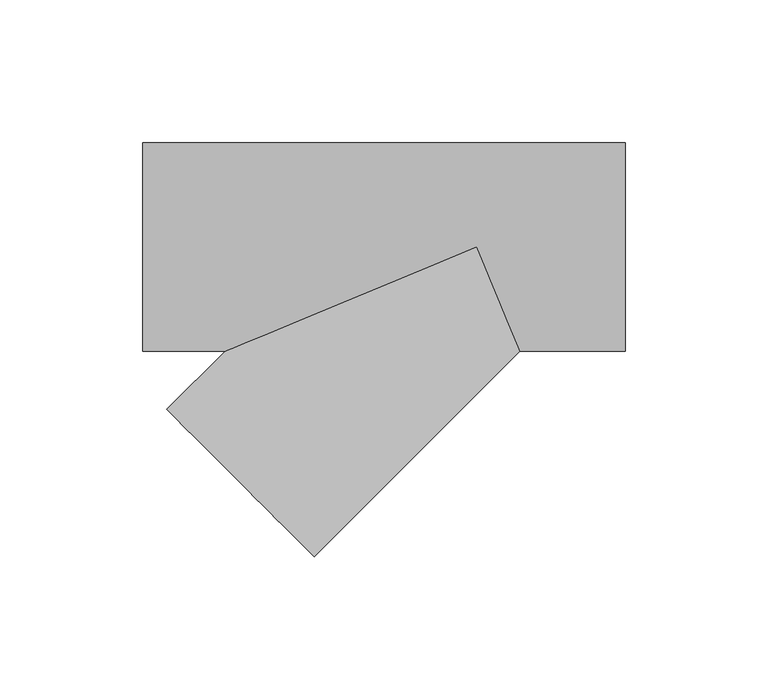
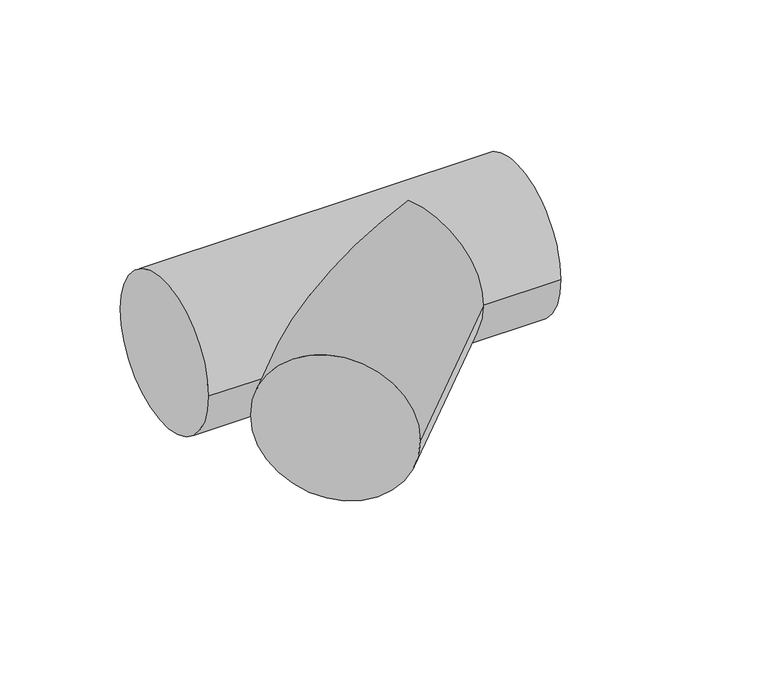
"""IFC4 building model written with IfcOpenShell, lengths in millimetres: pipe fitting geometry, 010513441 : Tés à 45º."""

from ifc_helpers import new_model, si_unit, frame, origin, place, context, project, spatial, circle_curve, ellipse_curve, source, transform, mapped, element, save
from ifc_brep_helpers import plane_surface, cylinder_surface, advanced_brep


def pipe_fitting_987cecb0(model_context):
    return source(origin(), model_context, "Body", "AdvancedBrep", [
        advanced_brep(
        [(-117.0, -36.5, 0.0), (-117.0, 36.5, 0.0), (52.0, -36.5, 0.0), (52.0, 36.5, 0.0), (-88.118795, -36.5, 0.0), (0.0, 0.0, 36.5), (15.118795, -36.5, 0.0), (0.0, 0.0, -36.5), (-108.5408909, -56.9220959, 0.0), (-56.9220959, -108.5408909, 0.0)],
        [
            (0, 1, circle_curve(frame((-117.0, 0.0, 0.0), z_axis=(-1.0, 0.0, 0.0), x_axis=(0.0, 1.0, 0.0)), 36.5)),
            (1, 0, circle_curve(frame((-117.0, 0.0, 0.0), z_axis=(-1.0, 0.0, 0.0), x_axis=(0.0, 1.0, 0.0)), 36.5)),
            (2, 3, circle_curve(frame((52.0, 0.0, 0.0), z_axis=(1.0, 0.0, 0.0), x_axis=(0.0, 1.0, 0.0)), 36.5)),
            (3, 2, circle_curve(frame((52.0, 0.0, 0.0), z_axis=(1.0, 0.0, 0.0), x_axis=(0.0, 1.0, 0.0)), 36.5)),
            (0, 4),
            (4, 5, ellipse_curve(frame((0.0, 0.0, 0.0), z_axis=(-0.38268343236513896, 0.9238795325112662, 0.0), x_axis=(-0.9238795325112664, -0.3826834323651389, 0.0)), 95.3790964, 36.5)),
            (5, 6, ellipse_curve(frame((0.0, 0.0, 0.0), z_axis=(0.9238795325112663, 0.382683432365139, 0.0), x_axis=(-0.38268343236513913, 0.9238795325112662, 0.0)), 39.5073153, 36.5)),
            (6, 2),
            (3, 1),
            (6, 7, ellipse_curve(frame((0.0, 0.0, 0.0), z_axis=(0.9238795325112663, 0.382683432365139, 0.0), x_axis=(-0.38268343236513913, 0.9238795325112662, 0.0)), 39.5073153, 36.5)),
            (7, 4, ellipse_curve(frame((0.0, 0.0, 0.0), z_axis=(-0.38268343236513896, 0.9238795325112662, 0.0), x_axis=(-0.9238795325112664, -0.3826834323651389, 0.0)), 95.3790964, 36.5)),
            (8, 9, circle_curve(frame((-82.7314934, -82.7314934, 0.0), z_axis=(-0.7071067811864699, -0.7071067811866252, 0.0), x_axis=(0.7071067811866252, -0.7071067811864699, 0.0)), 36.5)),
            (9, 8, circle_curve(frame((-82.7314934, -82.7314934, 0.0), z_axis=(-0.7071067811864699, -0.7071067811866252, 0.0), x_axis=(0.7071067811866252, -0.7071067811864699, 0.0)), 36.5)),
            (9, 6),
            (4, 8),
        ],
        [
            plane_surface(frame((-117.0, 0.0, 0.0), z_axis=(-1.0, 0.0, 0.0), x_axis=(0.0, 0.0, 1.0))),
            plane_surface(frame((52.0, 0.0, 0.0), z_axis=(1.0, 0.0, 0.0), x_axis=(0.0, 0.0, 1.0))),
            cylinder_surface(frame((-117.0, 0.0, 0.0), z_axis=(-1.0, 0.0, 0.0), x_axis=(0.0, 1.0, 0.0)), 36.5),
            plane_surface(frame((-82.7314934, -82.7314934, 0.0), z_axis=(-0.7071067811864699, -0.7071067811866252, 0.0), x_axis=(0.0, 0.0, 1.0))),
            cylinder_surface(frame((0.0, 0.0, 0.0), z_axis=(0.7071067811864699, 0.7071067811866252, 0.0), x_axis=(0.7071067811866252, -0.7071067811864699, 0.0)), 36.5),
        ],
        [
            (0, [[1, 2]]),
            (1, [[3, 4]]),
            (2, [[-1, 5, 6, 7, 8, -4, 9]]),
            (2, [[-2, -9, -3, -8, 10, 11, -5]]),
            (3, [[12, 13]]),
            (4, [[-13, 14, -7, -6, 15]]),
            (4, [[-12, -15, -11, -10, -14]]),
        ],
    ),
    ])


if __name__ == "__main__":
    model = new_model("IFC4")
    model_context = context("Model", 3, world=origin())
    ifc_project = project(units=[si_unit("LENGTHUNIT", "METRE", prefix="MILLI")], contexts=[model_context])
    site = spatial("IfcSite", under=ifc_project)
    building = spatial("IfcBuilding", under=site)
    placement = place(None, origin())
    pipe_fitting_shape = pipe_fitting_987cecb0(model_context)
    element("IfcPipeFitting", 1, ObjectType="010513441 : Tés à 45º", at=placement, inside=building, context=model_context, shape_type="MappedRepresentation", body=[
        mapped(pipe_fitting_shape, transform((0.0, 0.0, 0.0), x_axis=(1.0, 0.0, 0.0), y_axis=(0.0, 1.0, 0.0), z_axis=(0.0, 0.0, 1.0))),
    ])
    save(model, "model.ifc")
